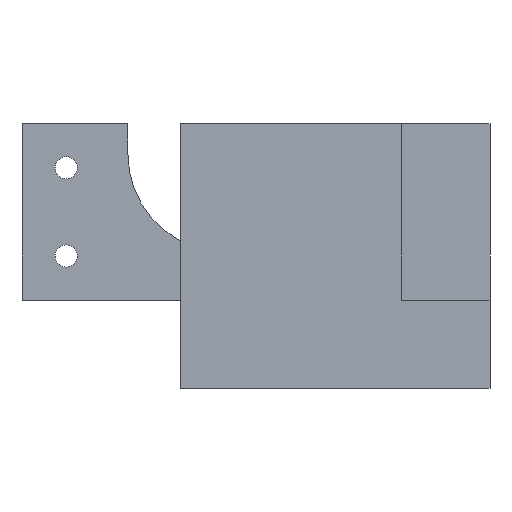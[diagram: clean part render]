
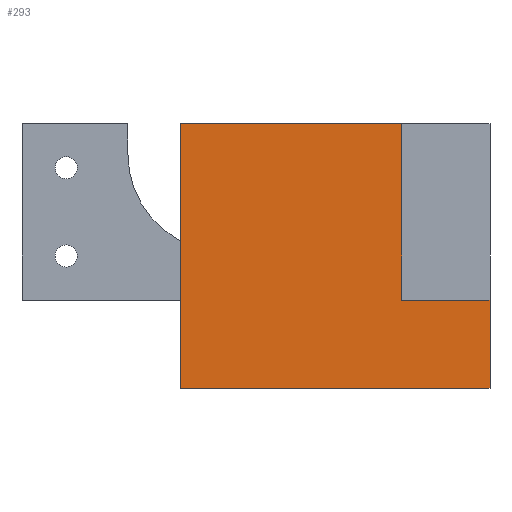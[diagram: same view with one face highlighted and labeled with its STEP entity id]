
A CAD part, front view. The second image highlights one B-rep face of the part: STEP entity #293.
In plain terms, the highlighted planar face has unit normal (0, -1, 0).
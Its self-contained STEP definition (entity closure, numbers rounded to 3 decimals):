
#250=AXIS2_PLACEMENT_3D('Plane Axis2P3D',#247,#248,#249) ;
#190=CARTESIAN_POINT('Vertex',(-25.,-20.,-10.)) ;
#193=CARTESIAN_POINT('Line Origine',(-25.,-20.,5.)) ;
#197=CARTESIAN_POINT('Vertex',(-25.,-20.,20.)) ;
#247=CARTESIAN_POINT('Axis2P3D Location',(10.,-20.,0.)) ;
#252=CARTESIAN_POINT('Line Origine',(-7.5,-20.,-10.)) ;
#256=CARTESIAN_POINT('Vertex',(10.,-20.,-10.)) ;
#259=CARTESIAN_POINT('Line Origine',(10.,-20.,-5.)) ;
#263=CARTESIAN_POINT('Vertex',(10.,-20.,0.)) ;
#266=CARTESIAN_POINT('Line Origine',(5.,-20.,0.)) ;
#270=CARTESIAN_POINT('Vertex',(0.,-20.,0.)) ;
#273=CARTESIAN_POINT('Line Origine',(0.,-20.,10.)) ;
#277=CARTESIAN_POINT('Vertex',(0.,-20.,20.)) ;
#280=CARTESIAN_POINT('Line Origine',(-12.5,-20.,20.)) ;
#194=DIRECTION('Vector Direction',(0.,0.,-1.)) ;
#248=DIRECTION('Axis2P3D Direction',(0.,1.,-0.)) ;
#249=DIRECTION('Axis2P3D XDirection',(-1.,0.,0.)) ;
#253=DIRECTION('Vector Direction',(-1.,0.,0.)) ;
#260=DIRECTION('Vector Direction',(0.,0.,1.)) ;
#267=DIRECTION('Vector Direction',(1.,0.,0.)) ;
#274=DIRECTION('Vector Direction',(0.,0.,-1.)) ;
#281=DIRECTION('Vector Direction',(-1.,0.,0.)) ;
#195=VECTOR('Line Direction',#194,1.) ;
#254=VECTOR('Line Direction',#253,1.) ;
#261=VECTOR('Line Direction',#260,1.) ;
#268=VECTOR('Line Direction',#267,1.) ;
#275=VECTOR('Line Direction',#274,1.) ;
#282=VECTOR('Line Direction',#281,1.) ;
#286=ORIENTED_EDGE('',*,*,#199,.T.) ;
#287=ORIENTED_EDGE('',*,*,#258,.T.) ;
#288=ORIENTED_EDGE('',*,*,#265,.T.) ;
#289=ORIENTED_EDGE('',*,*,#272,.F.) ;
#290=ORIENTED_EDGE('',*,*,#279,.F.) ;
#291=ORIENTED_EDGE('',*,*,#284,.F.) ;
#293=ADVANCED_FACE('\X2\96F64EF651E04F554F53\X0\',(#292),#251,.F.) ;
#199=EDGE_CURVE('',#198,#191,#196,.T.) ;
#258=EDGE_CURVE('',#191,#257,#255,.F.) ;
#265=EDGE_CURVE('',#257,#264,#262,.T.) ;
#272=EDGE_CURVE('',#271,#264,#269,.T.) ;
#279=EDGE_CURVE('',#278,#271,#276,.T.) ;
#284=EDGE_CURVE('',#198,#278,#283,.F.) ;
#285=EDGE_LOOP('',(#286,#287,#288,#289,#290,#291)) ;
#292=FACE_OUTER_BOUND('',#285,.T.) ;
#196=LINE('Line',#193,#195) ;
#255=LINE('Line',#252,#254) ;
#262=LINE('Line',#259,#261) ;
#269=LINE('Line',#266,#268) ;
#276=LINE('Line',#273,#275) ;
#283=LINE('Line',#280,#282) ;
#251=PLANE('',#250) ;
#191=VERTEX_POINT('',#190) ;
#198=VERTEX_POINT('',#197) ;
#257=VERTEX_POINT('',#256) ;
#264=VERTEX_POINT('',#263) ;
#271=VERTEX_POINT('',#270) ;
#278=VERTEX_POINT('',#277) ;
